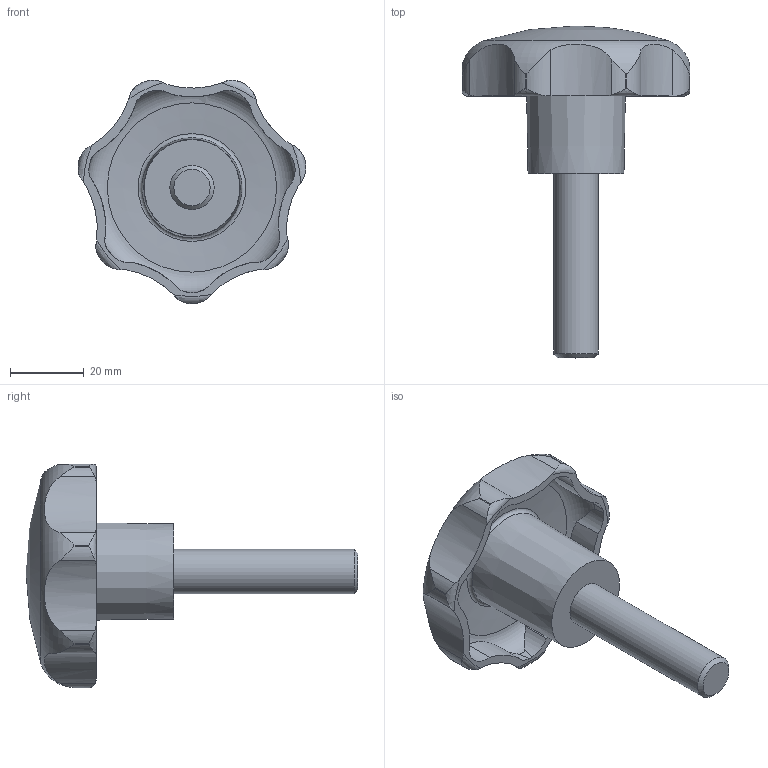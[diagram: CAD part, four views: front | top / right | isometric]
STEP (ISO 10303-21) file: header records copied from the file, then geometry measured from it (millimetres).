
FILE_DESCRIPTION( ( 'STEP AP203' ), '1' );
FILE_NAME( 'C:/Temp/Ganter_Step_05_03_2020/data/2_2/gn_6336_4/gn_6336_4_st/Star knob GN 6336.4-ST-63-M12-50.stp', '2020-03-05T12:07:46', ( 'License CC BY-ND 4.0' ), ( 'CADENAS' ), ' ', 'PARTsolutions', ' ' );
FILE_SCHEMA( ( 'CONFIG_CONTROL_DESIGN' ) );
Length unit declared in the file: millimetre
Products named in the file (1): _Star knob GN 6336.4-ST-63-M12-50
Bounding box: 61.76 x 90 x 60.57 mm (x, y, z)
Volume: 44783.7 mm3; surface area: 13578.9 mm2
Topology: 1 solids, 1 shells, 74 faces, 208 edges, 137 vertices
Faces by surface type: cylinder 50, torus 10, cone 10, plane 3, sphere 1
Full cylindrical faces by diameter (mm): 12 x1
Entity records: 3320 total; most frequent: CARTESIAN_POINT 1487, ORIENTED_EDGE 394, DIRECTION 350, EDGE_CURVE 197, AXIS2_PLACEMENT_3D 154, VERTEX_POINT 135, EDGE_LOOP 83, CIRCLE 79
